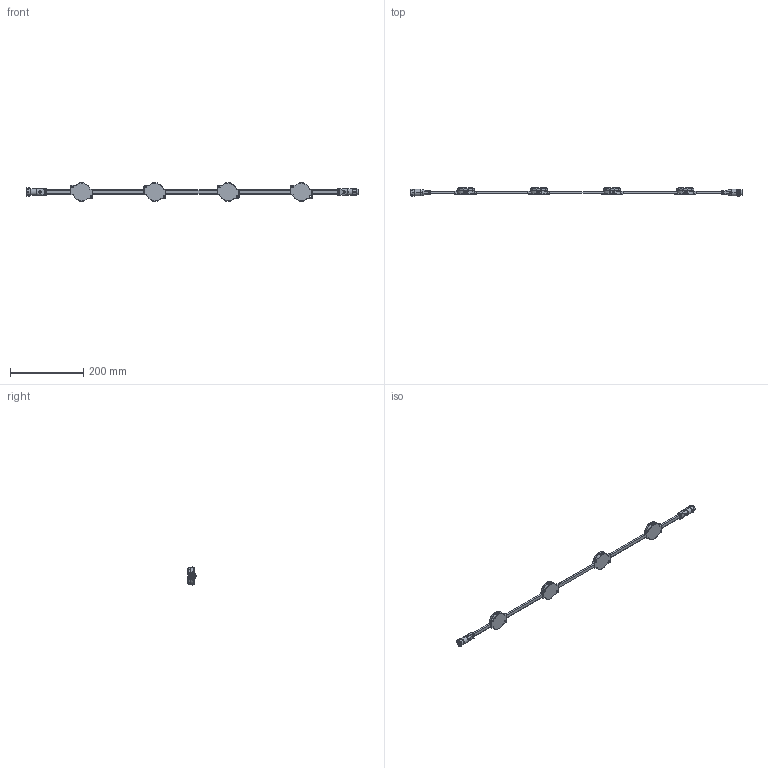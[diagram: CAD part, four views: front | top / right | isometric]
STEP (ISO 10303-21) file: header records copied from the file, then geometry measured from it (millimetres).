
FILE_DESCRIPTION (( 'STEP AP214' ), '1' );
FILE_NAME ('DIGI MODULE ES6 - 5pin.STEP', '2026-01-05T08:59:27', ( '' ), ( '' ), 'SwSTEP 2.0', 'SolidWorks 2025', '' );
FILE_SCHEMA (( 'AUTOMOTIVE_DESIGN' ));
Length unit declared in the file: millimetre
Products named in the file (6): M16 5p Flat mold - Female; M16 5p Flat mold - Male; DiGi Module ES6 - Cover; Part32^DIGI MODULE ES6; DiGi Module ES6 - Body; DIGI MODULE ES6 - 5pin
Assembly tree (11 placements, depth 2):
  DIGI MODULE ES6 - 5pin
    DiGi Module ES6 - Body  x4
    DiGi Module ES6 - Cover  x4
    Part32^DIGI MODULE ES6
    M16 5p Flat mold - Female
    M16 5p Flat mold - Male
Bounding box: 907.71 x 22.14 x 49.6 mm (x, y, z)
Volume: 154786.7 mm3; surface area: 79150 mm2
Topology: 47 solids, 47 shells, 1979 faces, 4738 edges, 2892 vertices
Faces by surface type: cylinder 721, plane 681, bspline 296, torus 171, cone 88, sphere 22
Full cylindrical faces by diameter (mm): 9.2 x1, 11.1 x1, 11.8 x1, 14.25 x1, 14.8 x1, 15.2 x1, 37.3 x4, 41.35 x8
Entity records: 74938 total; most frequent: CARTESIAN_POINT 37766, ORIENTED_EDGE 5454, DIRECTION 4340, EDGE_CURVE 2727, VERTEX_POINT 1668, AXIS2_PLACEMENT_3D 1658, EDGE_LOOP 1255, UNCERTAINTY_MEASURE_WITH_UNIT 1182
